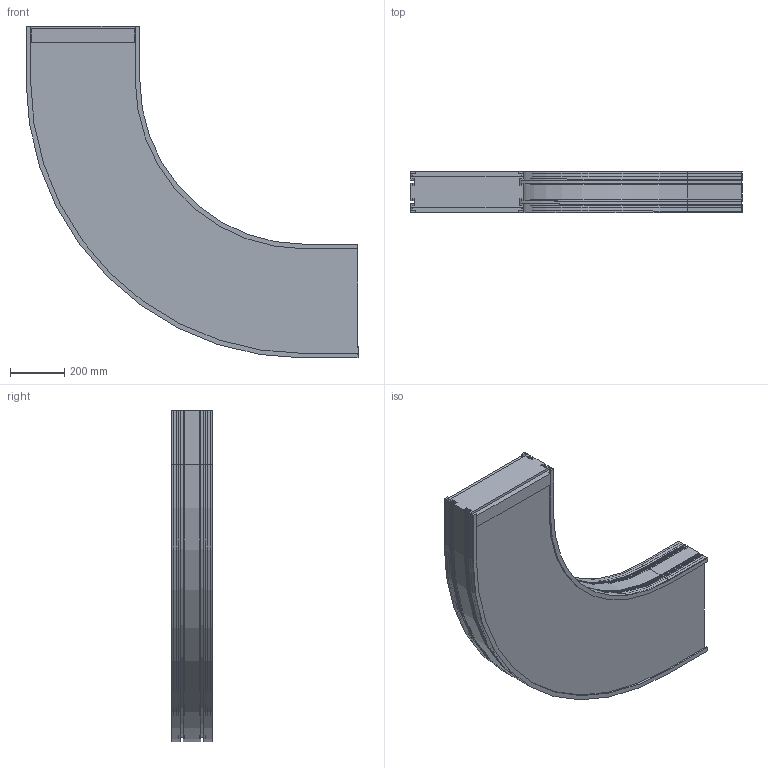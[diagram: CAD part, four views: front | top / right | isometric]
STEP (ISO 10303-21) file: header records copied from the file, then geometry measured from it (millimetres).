
FILE_DESCRIPTION (( 'STEP AP203' ), '1' );
FILE_NAME ('F2-1500-C90.STEP', '2009-02-16T12:22:30', ( 'faber' ), ( '' ), 'SwSTEP 2.0', 'SolidWorks 2008', '' );
FILE_SCHEMA (( 'CONFIG_CONTROL_DESIGN' ));
Length unit declared in the file: millimetre
Products named in the file (3): Tapis_1500; Courbe_  1500; F2-1500-C90
Assembly tree (3 placements, depth 2):
  F2-1500-C90
    Courbe_  1500
    Tapis_1500  x2
Bounding box: 1219 x 152.88 x 1219 mm (x, y, z)
Volume: 79752034.9 mm3; surface area: 2975145.4 mm2
Topology: 3 solids, 3 shells, 190 faces, 552 edges, 368 vertices
Faces by surface type: plane 148, cylinder 42
Entity records: 6273 total; most frequent: CARTESIAN_POINT 1066, ORIENTED_EDGE 1056, DIRECTION 984, EDGE_CURVE 528, LINE 444, VECTOR 444, VERTEX_POINT 352, AXIS2_PLACEMENT_3D 270
